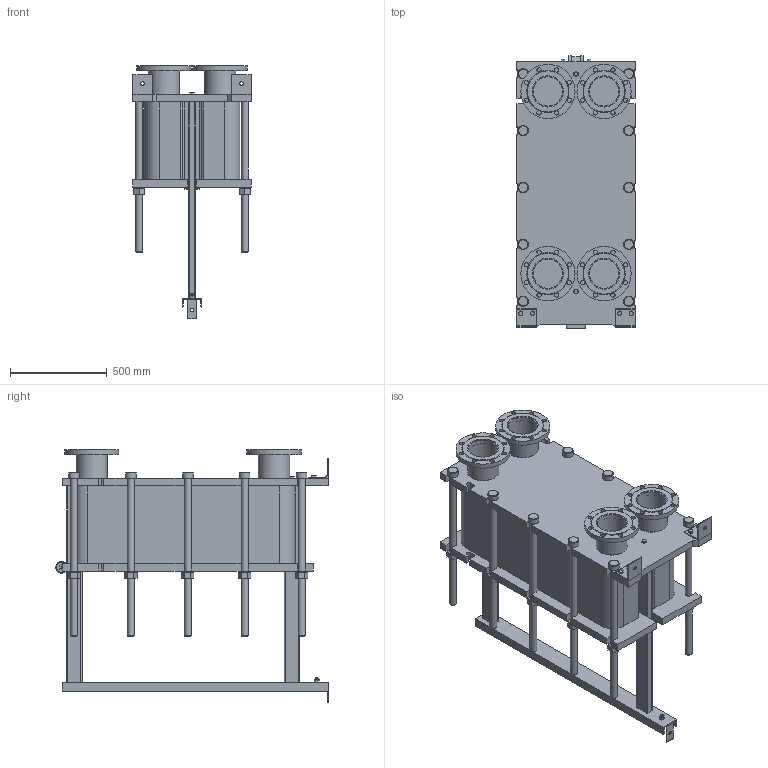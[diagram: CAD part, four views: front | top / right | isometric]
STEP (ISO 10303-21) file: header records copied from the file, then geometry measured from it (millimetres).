
FILE_DESCRIPTION(/* description */ (''),/* implementation_level */ '2;1');
FILE_NAME(/* name */ 'C:\Users\zhuro\Desktop\ENCO\TO\ЭН-041\ЭН-0,5-041-116-1.stp',/* time_stamp */ '2022-06-06T10:59:21+03:00',/* author */ ('zhuro'),/* organization */ (''),/* preprocessor_version */ 'ST-DEVELOPER v18.1',/* originating_system */ 'Autodesk Inventor 2022',/* authorisation */ '');
FILE_SCHEMA (('AUTOMOTIVE_DESIGN { 1 0 10303 214 3 1 1 }'));
Length unit declared in the file: millimetre
Products named in the file (1): ЭН-0,5-041-116-1
Bounding box: 610 x 1406.5 x 1310 mm (x, y, z)
Volume: 306684911.8 mm3; surface area: 9377298 mm2
Topology: 52 solids, 52 shells, 711 faces, 1696 edges, 1094 vertices
Faces by surface type: plane 487, cylinder 177, cone 41, torus 6
Full cylindrical faces by diameter (mm): 8 x4, 10 x2, 16 x8, 18 x3, 22 x32, 36 x24, 50 x1, 54 x10, 60 x12, 151 x4, 161 x8, 280 x4
Entity records: 22667 total; most frequent: CARTESIAN_POINT 5230, DIRECTION 3644, ORIENTED_EDGE 3392, EDGE_CURVE 1696, AXIS2_PLACEMENT_3D 1272, LINE 1100, VECTOR 1100, VERTEX_POINT 1094
